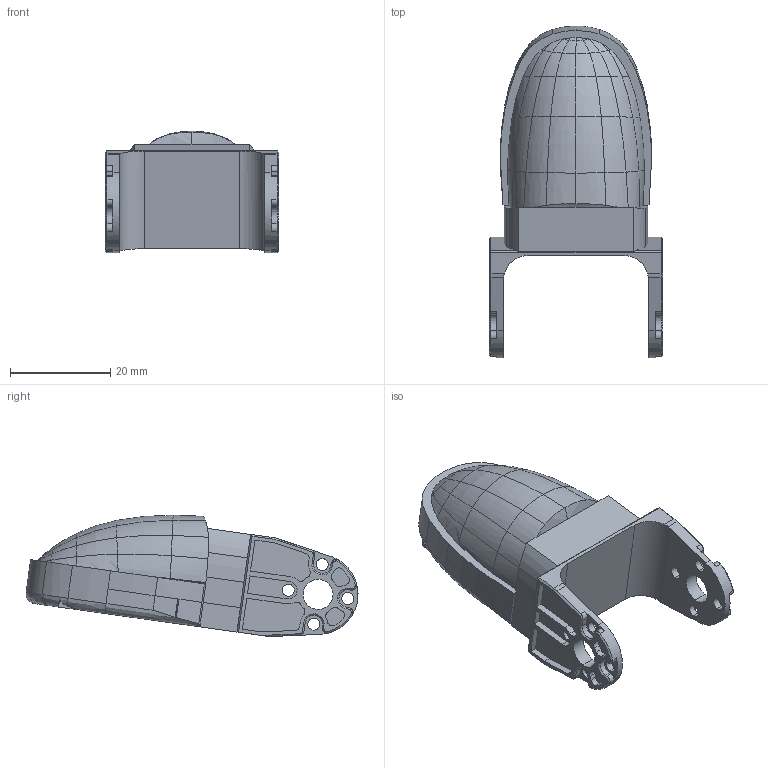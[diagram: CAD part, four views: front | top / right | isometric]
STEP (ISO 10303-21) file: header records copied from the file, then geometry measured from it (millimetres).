
FILE_DESCRIPTION (( 'STEP AP214' ), '1' );
FILE_NAME ('指尖去除皮肤装', '2026-07-09T10:31:13', ( '' ), ( '' ), 'SwSTEP 2.0', 'SolidWorks 2024', '' );
FILE_SCHEMA (( 'AUTOMOTIVE_DESIGN' ));
Length unit declared in the file: millimetre
Products named in the file (4): 指尖30mm去除皮肤_默认; 指尖去除皮肤装配体; 指尖背板; 传感器连接舵机6_默认
Assembly tree (3 placements, depth 2):
  指尖去除皮肤装配体
    指尖30mm去除皮肤_默认
    传感器连接舵机6_默认
    指尖背板
Bounding box: 34.6 x 66.37 x 24.29 mm (x, y, z)
Volume: 16509.9 mm3; surface area: 12022.8 mm2
Topology: 4 solids, 6 shells, 996 faces, 2783 edges, 1806 vertices
Faces by surface type: plane 578, cylinder 248, bspline 132, cone 30, torus 6, sphere 2
Entity records: 38653 total; most frequent: CARTESIAN_POINT 13668, ORIENTED_EDGE 5562, DIRECTION 4632, EDGE_CURVE 2781, VECTOR 1866, LINE 1866, VERTEX_POINT 1806, AXIS2_PLACEMENT_3D 1383
